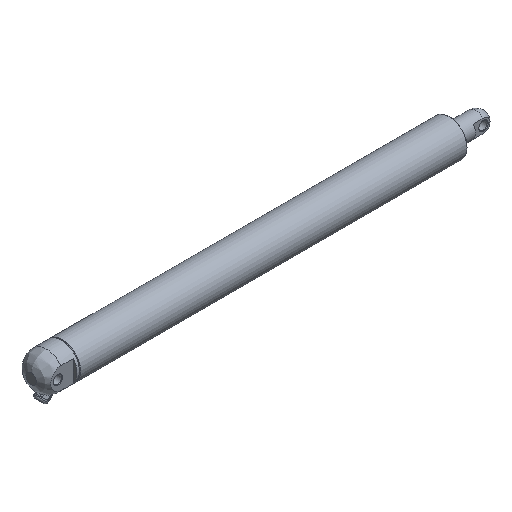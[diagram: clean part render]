
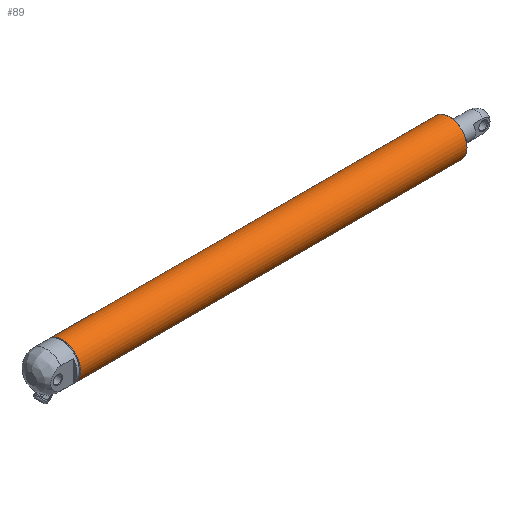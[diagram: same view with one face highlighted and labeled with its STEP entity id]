
A CAD part, isometric view. The second image highlights one B-rep face of the part: STEP entity #89.
In plain terms, the highlighted cylindrical face has radius 17.5 mm (diameter 35 mm), a full revolution.
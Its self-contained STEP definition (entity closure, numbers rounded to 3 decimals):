
#89 = ADVANCED_FACE( '', ( #230, #231 ), #232, .T. );
#230 = FACE_OUTER_BOUND( '', #448, .T. );
#231 = FACE_OUTER_BOUND( '', #449, .T. );
#232 = CYLINDRICAL_SURFACE( '', #450, 17.5 );
#448 = EDGE_LOOP( '', ( #736 ) );
#449 = EDGE_LOOP( '', ( #737 ) );
#450 = AXIS2_PLACEMENT_3D( '', #738, #739, #740 );
#736 = ORIENTED_EDGE( '', *, *, #1218, .T. );
#737 = ORIENTED_EDGE( '', *, *, #1219, .T. );
#738 = CARTESIAN_POINT( '', ( 376., 0., 0. ) );
#739 = DIRECTION( '', ( 1., 0., 0. ) );
#740 = DIRECTION( '', ( 0., 0., 1. ) );
#1218 = EDGE_CURVE( '', #1410, #1410, #1411, .F. );
#1219 = EDGE_CURVE( '', #1412, #1412, #1413, .T. );
#1410 = VERTEX_POINT( '', #1692 );
#1411 = CIRCLE( '', #1693, 17.5 );
#1412 = VERTEX_POINT( '', #1694 );
#1413 = CIRCLE( '', #1695, 17.5 );
#1692 = CARTESIAN_POINT( '', ( 0.5, 0., 17.5 ) );
#1693 = AXIS2_PLACEMENT_3D( '', #2242, #2243, #2244 );
#1694 = CARTESIAN_POINT( '', ( 375.5, 0., 17.5 ) );
#1695 = AXIS2_PLACEMENT_3D( '', #2245, #2246, #2247 );
#2242 = CARTESIAN_POINT( '', ( 0.5, 0., 0. ) );
#2243 = DIRECTION( '', ( -1., 0., 0. ) );
#2244 = DIRECTION( '', ( 0., 0., 1. ) );
#2245 = CARTESIAN_POINT( '', ( 375.5, 0., 0. ) );
#2246 = DIRECTION( '', ( -1., 0., 0. ) );
#2247 = DIRECTION( '', ( 0., 0., 1. ) );
